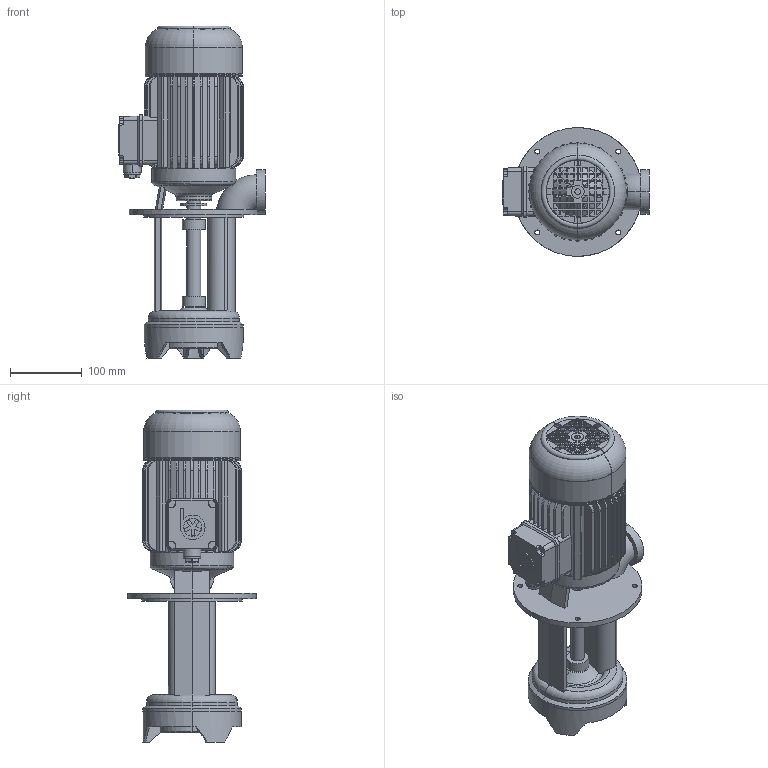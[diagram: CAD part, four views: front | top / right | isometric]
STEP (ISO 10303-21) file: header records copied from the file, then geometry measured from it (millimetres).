
FILE_DESCRIPTION(('no description'),'unknown implementation level');
FILE_NAME('TA400_200_1.stp',' ',('K. H. Brinkmann GmbH & Co. KG'),('CADClick - KiM GmbH - www.kimweb.de'),'unknown preprocess','ACIS','unknown authorization');
FILE_SCHEMA(('automotive_design'));
Length unit declared in the file: millimetre
Products named in the file (3): 1; 2; 3
Bounding box: 205 x 180 x 463.99 mm (x, y, z)
Volume: 3924173.5 mm3; surface area: 514531 mm2
Topology: 3 solids, 3 shells, 833 faces, 2237 edges, 1450 vertices
Faces by surface type: plane 491, cylinder 178, torus 114, cone 48, revolution 2
Entity records: 56518 total; most frequent: CARTESIAN_POINT 10179, STYLED_ITEM 4523, PRESENTATION_STYLE_ASSIGNMENT 4523, COLOUR_RGB 4523, ORIENTED_EDGE 4474, DIRECTION 4317, EDGE_CURVE 2237, CURVE_STYLE 2237
